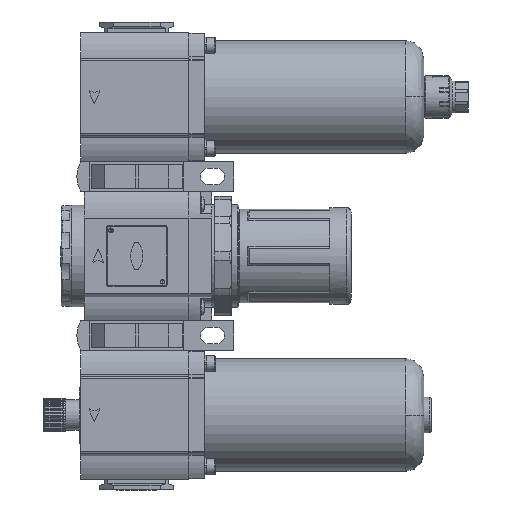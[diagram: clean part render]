
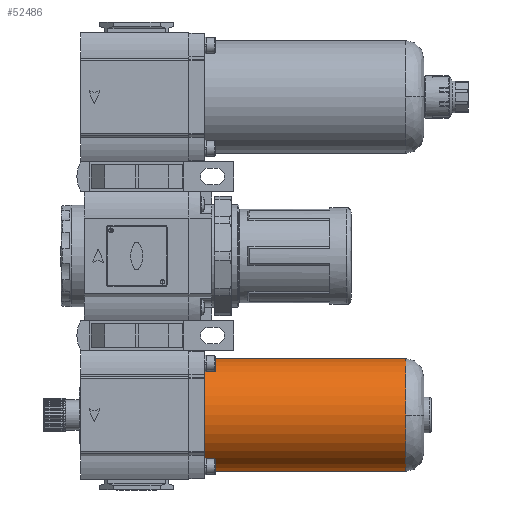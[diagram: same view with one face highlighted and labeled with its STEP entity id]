
A CAD part, left-side view. The second image highlights one B-rep face of the part: STEP entity #52486.
In plain terms, the highlighted cylindrical face has radius 37.25 mm (diameter 74.5 mm), a partial arc.
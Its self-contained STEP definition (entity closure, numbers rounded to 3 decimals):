
#643 = CARTESIAN_POINT ( 'NONE',  ( 0., -111., -67.75 ) ) ;
#4193 = EDGE_CURVE ( 'NONE', #63182, #46419, #82408, .T. ) ;
#5536 = VECTOR ( 'NONE', #32058, 1000. ) ;
#5551 = DIRECTION ( 'NONE',  ( 0., 0., -1. ) ) ;
#6118 = ORIENTED_EDGE ( 'NONE', *, *, #4193, .T. ) ;
#9639 = DIRECTION ( 'NONE',  ( 0., -1., 0. ) ) ;
#13972 = VERTEX_POINT ( 'NONE', #93527 ) ;
#14275 = VERTEX_POINT ( 'NONE', #83172 ) ;
#15308 = EDGE_CURVE ( 'NONE', #14275, #92574, #30052, .T. ) ;
#16620 = CARTESIAN_POINT ( 'NONE',  ( 0., -44.5, -105. ) ) ;
#19194 = CARTESIAN_POINT ( 'NONE',  ( 0., -111., -105. ) ) ;
#20755 = CARTESIAN_POINT ( 'NONE',  ( 0., -177.5, -105. ) ) ;
#23762 = LINE ( 'NONE', #47297, #81531 ) ;
#24255 = ORIENTED_EDGE ( 'NONE', *, *, #92512, .T. ) ;
#25373 = CARTESIAN_POINT ( 'NONE',  ( -37.25, -177.5, -105. ) ) ;
#26152 = CARTESIAN_POINT ( 'NONE',  ( 0., -44.5, -142.25 ) ) ;
#28511 = AXIS2_PLACEMENT_3D ( 'NONE', #58275, #65535, #44195 ) ;
#30052 = CIRCLE ( 'NONE', #76044, 37.25 ) ;
#32058 = DIRECTION ( 'NONE',  ( 0., -1., 0. ) ) ;
#44195 = DIRECTION ( 'NONE',  ( 0., 0., -1. ) ) ;
#46419 = VERTEX_POINT ( 'NONE', #25373 ) ;
#47297 = CARTESIAN_POINT ( 'NONE',  ( 0., -111., -142.25 ) ) ;
#48288 = EDGE_CURVE ( 'NONE', #14275, #13972, #85794, .T. ) ;
#49368 = ORIENTED_EDGE ( 'NONE', *, *, #96464, .T. ) ;
#49882 = DIRECTION ( 'NONE',  ( 0., 1., 0. ) ) ;
#50671 = CYLINDRICAL_SURFACE ( 'NONE', #67794, 37.25 ) ;
#51674 = ORIENTED_EDGE ( 'NONE', *, *, #48288, .F. ) ;
#52416 = CARTESIAN_POINT ( 'NONE',  ( 0., -177.5, -142.25 ) ) ;
#52486 = ADVANCED_FACE ( 'NONE', ( #55364 ), #50671, .T. ) ;
#55364 = FACE_OUTER_BOUND ( 'NONE', #63942, .T. ) ;
#58275 = CARTESIAN_POINT ( 'NONE',  ( 0., -177.5, -105. ) ) ;
#61326 = DIRECTION ( 'NONE',  ( 0., -1., 0. ) ) ;
#62307 = DIRECTION ( 'NONE',  ( 0., 0., -1. ) ) ;
#63182 = VERTEX_POINT ( 'NONE', #52416 ) ;
#63942 = EDGE_LOOP ( 'NONE', ( #51674, #92284, #24255, #6118, #49368 ) ) ;
#65535 = DIRECTION ( 'NONE',  ( 0., 1., 0. ) ) ;
#66222 = DIRECTION ( 'NONE',  ( 0., -1., 0. ) ) ;
#67794 = AXIS2_PLACEMENT_3D ( 'NONE', #19194, #66222, #73166 ) ;
#73166 = DIRECTION ( 'NONE',  ( 0., 0., -1. ) ) ;
#73210 = CIRCLE ( 'NONE', #28511, 37.25 ) ;
#76044 = AXIS2_PLACEMENT_3D ( 'NONE', #16620, #9639, #62307 ) ;
#78933 = AXIS2_PLACEMENT_3D ( 'NONE', #20755, #49882, #5551 ) ;
#81531 = VECTOR ( 'NONE', #61326, 1000. ) ;
#82408 = CIRCLE ( 'NONE', #78933, 37.25 ) ;
#83172 = CARTESIAN_POINT ( 'NONE',  ( 0., -44.5, -67.75 ) ) ;
#85794 = LINE ( 'NONE', #643, #5536 ) ;
#92284 = ORIENTED_EDGE ( 'NONE', *, *, #15308, .T. ) ;
#92512 = EDGE_CURVE ( 'NONE', #92574, #63182, #23762, .T. ) ;
#92574 = VERTEX_POINT ( 'NONE', #26152 ) ;
#93527 = CARTESIAN_POINT ( 'NONE',  ( 0., -177.5, -67.75 ) ) ;
#96464 = EDGE_CURVE ( 'NONE', #46419, #13972, #73210, .T. ) ;
